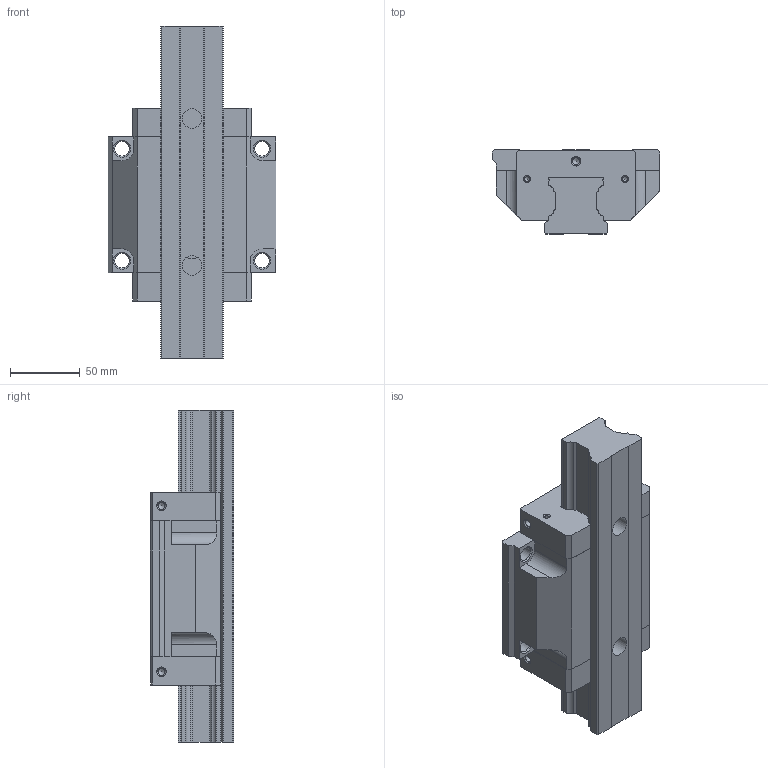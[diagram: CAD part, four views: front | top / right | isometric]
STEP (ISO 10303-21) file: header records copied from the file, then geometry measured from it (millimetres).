
FILE_DESCRIPTION(/* description */ ('Unknown'),/* implementation_level */ '2;1');
FILE_NAME(/* name */ 'SIZE45',/* time_stamp */ '2019-11-14T14:25:10-05:00',/* author */ ('Unknown'),/* organization */ ('Unknown'),/* preprocessor_version */ 'ST-DEVELOPER v16.7',/* originating_system */ 'Solid Edge',/* authorisation */ 'Unknown');
FILE_SCHEMA (('AUTOMOTIVE_DESIGN {1 0 10303 214 3 1 1}'));
Length unit declared in the file: millimetre
Products named in the file (5): SIZE45; SW16RAIL-SZ45-R160540231_3776; R160540231_3776_1; Rexroth-R1651-414-20; RUSIZE_0606172137423
Assembly tree (4 placements, depth 3):
  SIZE45
    SW16RAIL-SZ45-R160540231_3776
      R160540231_3776_1
    Rexroth-R1651-414-20
      RUSIZE_0606172137423
Bounding box: 120 x 60 x 237.19 mm (x, y, z)
Volume: 842265.8 mm3; surface area: 112215.7 mm2
Topology: 2 solids, 2 shells, 188 faces, 507 edges, 331 vertices
Faces by surface type: plane 116, cylinder 42, cone 30
Full cylindrical faces by diameter (mm): 0.8 x2, 3.3 x4, 5 x8, 10.4 x6, 14 x2, 17 x2, 20 x2
Entity records: 6554 total; most frequent: CARTESIAN_POINT 931, DIRECTION 914, ORIENTED_EDGE 848, EDGE_CURVE 424, LINE 320, VECTOR 320, VERTEX_POINT 314, AXIS2_PLACEMENT_3D 297
